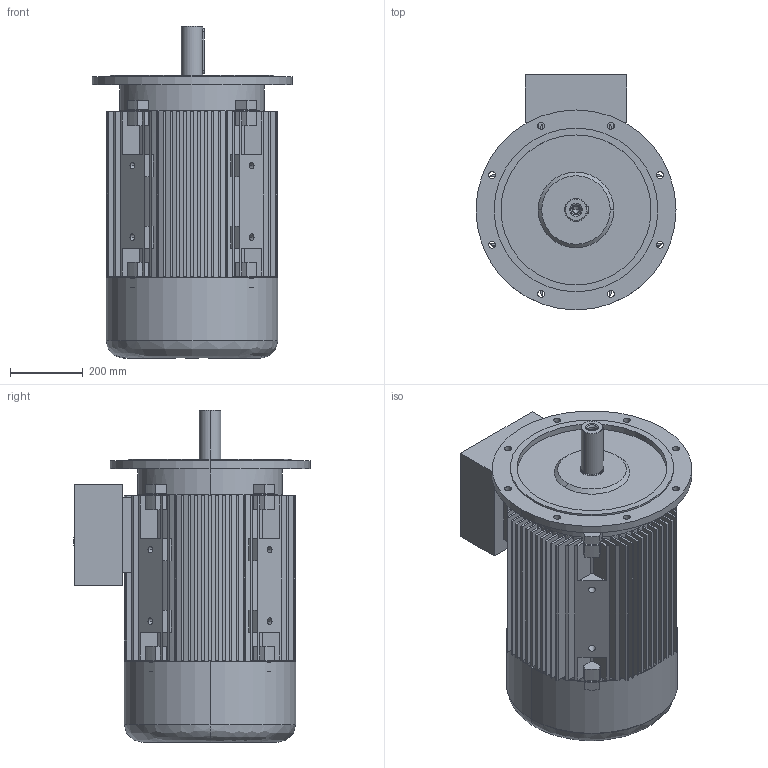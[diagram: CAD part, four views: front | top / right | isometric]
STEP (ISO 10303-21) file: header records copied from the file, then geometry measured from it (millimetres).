
FILE_DESCRIPTION (( 'STEP AP203' ), '1' );
FILE_NAME ('20.18374_B 7AZ 250M -2 B5 STANDK.STEP', '2018-04-06T10:50:57', ( '' ), ( '' ), 'SwSTEP 2.0', 'SolidWorks 2017', '' );
FILE_SCHEMA (( 'CONFIG_CONTROL_DESIGN' ));
Length unit declared in the file: millimetre
Products named in the file (1): 20.18374_B 7AZ 250M -2 B5 STANDK
Bounding box: 550 x 649 x 913 mm (x, y, z)
Volume: 45588336.1 mm3; surface area: 6244120.3 mm2
Topology: 14 solids, 14 shells, 801 faces, 2121 edges, 1393 vertices
Faces by surface type: plane 628, cylinder 126, cone 34, bspline 13
Entity records: 25453 total; most frequent: CARTESIAN_POINT 5191, ORIENTED_EDGE 4206, DIRECTION 4143, EDGE_CURVE 2103, VECTOR 1573, LINE 1573, VERTEX_POINT 1393, AXIS2_PLACEMENT_3D 1285
